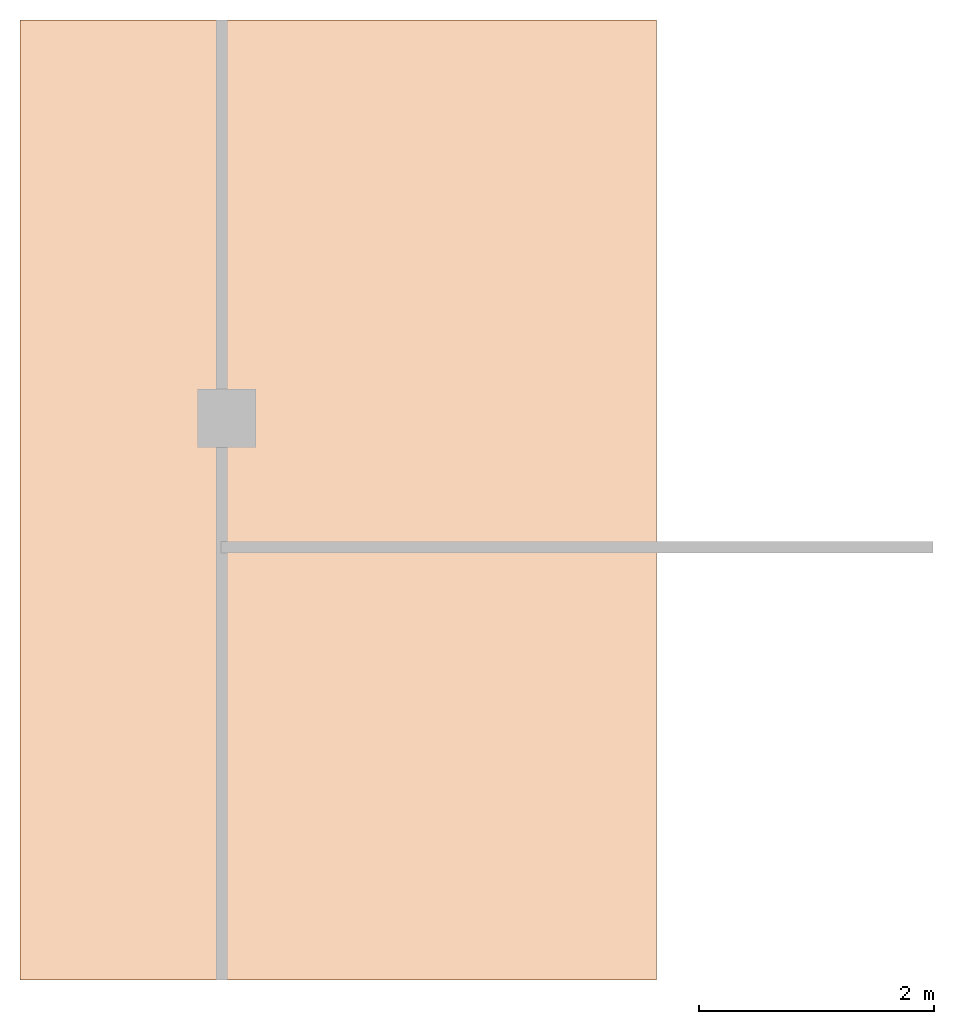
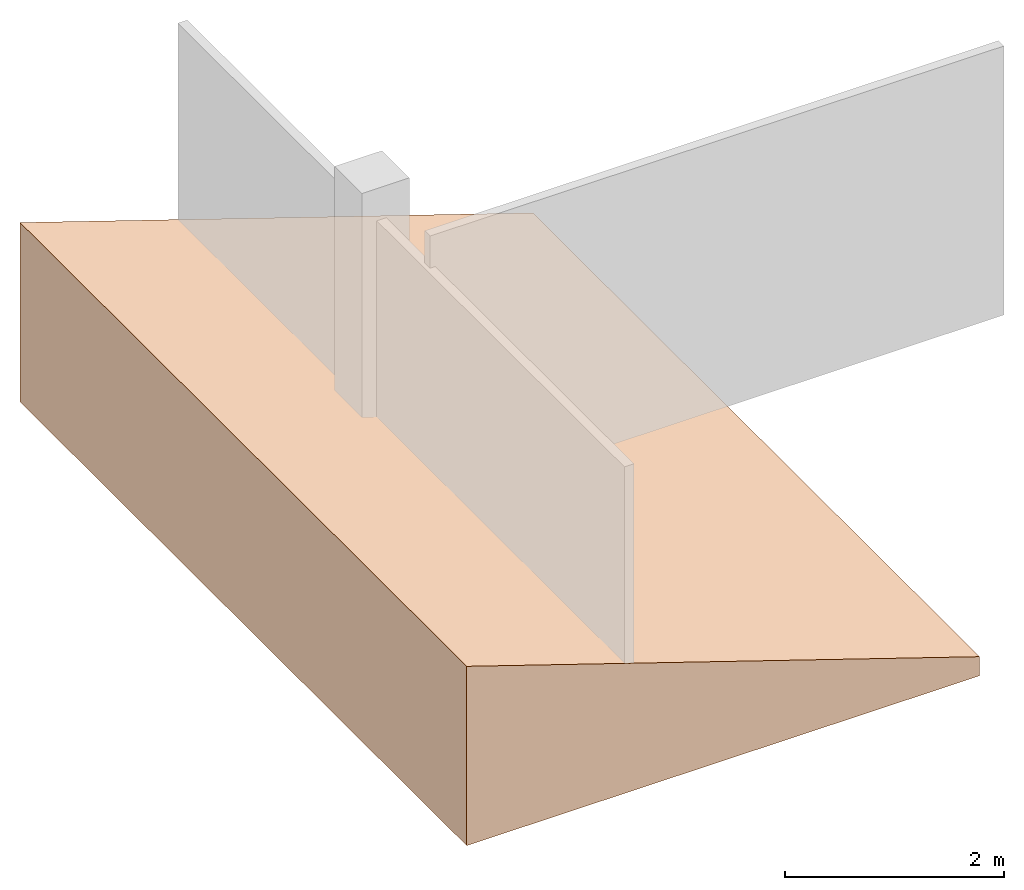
# One storey, part 2 of 2: 1 geographic element.
"""IFC4 building model written with IfcOpenShell, lengths in millimetres."""

from ifc_helpers import new_model, entity, si_unit, converted_unit, origin_with_axes, origin_2d_with_axis, place, context, subcontext, project, spatial, polygons, material, layer, layer_set, element, save


model = new_model("IFC4")

# Units and contexts
model_context = context("Model", 3, precision=1e-05, world=origin_with_axes())
plan_context = context("Plan", 2, precision=1e-05, world=origin_2d_with_axis())
body_context = subcontext(model_context, "Body", "Model", "MODEL_VIEW")
ifc_project = project(units=[si_unit("LENGTHUNIT", "METRE", prefix="MILLI"), converted_unit("PLANEANGLEUNIT", "degree", entity("IfcReal", 0.0174532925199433), si_unit("PLANEANGLEUNIT", "RADIAN"), dimensions=[0, 0, 0, 0, 0, 0, 0]), si_unit("AREAUNIT", "SQUARE_METRE"), si_unit("VOLUMEUNIT", "CUBIC_METRE")], contexts=[model_context, plan_context])

# Site, building, storey
site_placement = place(None, origin_with_axes())
site = spatial("IfcSite", under=ifc_project, at=site_placement, Name="My Site")
building_placement = place(site_placement, origin_with_axes())
building = spatial("IfcBuilding", under=site, at=building_placement, Name="My Building")
storey_placement = place(building_placement, origin_with_axes())
storey = spatial("IfcBuildingStorey", under=building, at=storey_placement, Name="My Storey")

# Geographic element
ifc_material = material(Name="earth")
ifc_layer = layer(ifc_material, 100.0)
ifc_layer_set = layer_set([ifc_layer], Name="earth")
geographic_element_placement = place(storey_placement, origin_with_axes())
element("IfcGeographicElement", 1, at=geographic_element_placement, inside=storey, material=ifc_layer_set, Name="Cube", PredefinedType="TERRAIN", context=body_context, shape_type="Tessellation", body=[
    polygons([(-999.999938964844, -999.999938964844, -999.999938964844), (-999.999938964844, -999.999938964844, 999.999938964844), (-999.999938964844, 7163.65966796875, -999.999938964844), (-999.999938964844, 7163.65966796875, 999.999938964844), (4411.57080078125, -999.999938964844, -999.999938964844), (4411.57080078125, -999.999938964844, -786.717590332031), (4411.57080078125, 7163.65966796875, -999.999938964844), (4411.57080078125, 7163.65966796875, -786.717590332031)], [[[1, 2, 4, 3]], [[3, 4, 8, 7]], [[7, 8, 6, 5]], [[5, 6, 2, 1]], [[3, 7, 5, 1]], [[8, 4, 2, 6]]]),
])

save(model, "model.ifc")
